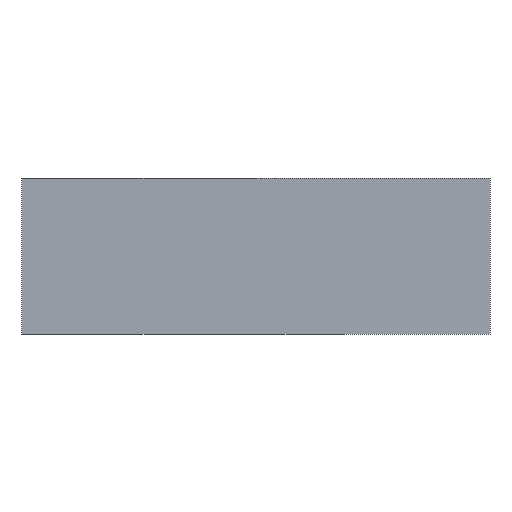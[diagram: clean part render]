
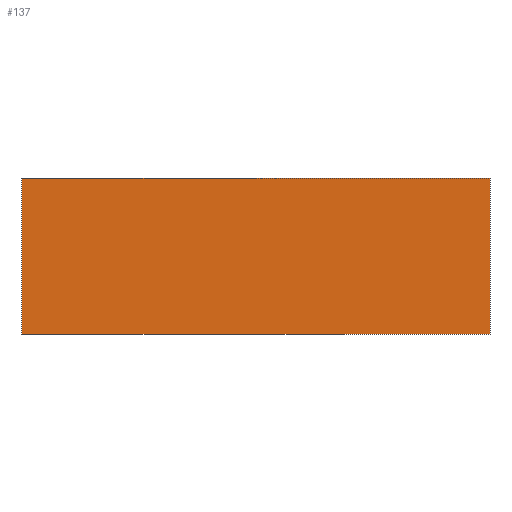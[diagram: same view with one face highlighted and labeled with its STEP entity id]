
A CAD part, front view. The second image highlights one B-rep face of the part: STEP entity #137.
In plain terms, the highlighted planar face has unit normal (0, -1, 0).
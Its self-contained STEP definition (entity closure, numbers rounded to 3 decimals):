
#21 = EDGE_CURVE('',#22,#24,#26,.T.);
#22 = VERTEX_POINT('',#23);
#23 = CARTESIAN_POINT('',(-14.,-30.8,53.2));
#24 = VERTEX_POINT('',#25);
#25 = CARTESIAN_POINT('',(-14.,-30.8,57.2));
#26 = SURFACE_CURVE('',#27,(#31,#43),.PCURVE_S1.);
#27 = LINE('',#28,#29);
#28 = CARTESIAN_POINT('',(-14.,-30.8,53.2));
#29 = VECTOR('',#30,1.);
#30 = DIRECTION('',(0.,0.,1.));
#31 = PCURVE('',#32,#37);
#32 = PLANE('',#33);
#33 = AXIS2_PLACEMENT_3D('',#34,#35,#36);
#34 = CARTESIAN_POINT('',(-14.,-30.8,53.2));
#35 = DIRECTION('',(1.,0.,0.));
#36 = DIRECTION('',(0.,0.,1.));
#37 = DEFINITIONAL_REPRESENTATION('',(#38),#42);
#38 = LINE('',#39,#40);
#39 = CARTESIAN_POINT('',(0.,0.));
#40 = VECTOR('',#41,1.);
#41 = DIRECTION('',(1.,0.));
#42 = ( GEOMETRIC_REPRESENTATION_CONTEXT(2) 
PARAMETRIC_REPRESENTATION_CONTEXT() REPRESENTATION_CONTEXT('2D SPACE',''
  ) );
#43 = PCURVE('',#44,#49);
#44 = PLANE('',#45);
#45 = AXIS2_PLACEMENT_3D('',#46,#47,#48);
#46 = CARTESIAN_POINT('',(-14.,-30.8,53.2));
#47 = DIRECTION('',(0.,1.,0.));
#48 = DIRECTION('',(0.,0.,1.));
#49 = DEFINITIONAL_REPRESENTATION('',(#50),#54);
#50 = LINE('',#51,#52);
#51 = CARTESIAN_POINT('',(0.,0.));
#52 = VECTOR('',#53,1.);
#53 = DIRECTION('',(1.,0.));
#54 = ( GEOMETRIC_REPRESENTATION_CONTEXT(2) 
PARAMETRIC_REPRESENTATION_CONTEXT() REPRESENTATION_CONTEXT('2D SPACE',''
  ) );
#72 = PLANE('',#73);
#73 = AXIS2_PLACEMENT_3D('',#74,#75,#76);
#74 = CARTESIAN_POINT('',(-14.,-30.8,53.2));
#75 = DIRECTION('',(0.,0.,1.));
#76 = DIRECTION('',(1.,0.,0.));
#126 = PLANE('',#127);
#127 = AXIS2_PLACEMENT_3D('',#128,#129,#130);
#128 = CARTESIAN_POINT('',(-14.,-30.8,57.2));
#129 = DIRECTION('',(0.,0.,1.));
#130 = DIRECTION('',(1.,0.,0.));
#137 = ADVANCED_FACE('',(#138),#44,.F.);
#138 = FACE_BOUND('',#139,.F.);
#139 = EDGE_LOOP('',(#140,#163,#164,#187));
#140 = ORIENTED_EDGE('',*,*,#141,.F.);
#141 = EDGE_CURVE('',#22,#142,#144,.T.);
#142 = VERTEX_POINT('',#143);
#143 = CARTESIAN_POINT('',(-2.,-30.8,53.2));
#144 = SURFACE_CURVE('',#145,(#149,#156),.PCURVE_S1.);
#145 = LINE('',#146,#147);
#146 = CARTESIAN_POINT('',(-14.,-30.8,53.2));
#147 = VECTOR('',#148,1.);
#148 = DIRECTION('',(1.,0.,0.));
#149 = PCURVE('',#44,#150);
#150 = DEFINITIONAL_REPRESENTATION('',(#151),#155);
#151 = LINE('',#152,#153);
#152 = CARTESIAN_POINT('',(0.,0.));
#153 = VECTOR('',#154,1.);
#154 = DIRECTION('',(0.,1.));
#155 = ( GEOMETRIC_REPRESENTATION_CONTEXT(2) 
PARAMETRIC_REPRESENTATION_CONTEXT() REPRESENTATION_CONTEXT('2D SPACE',''
  ) );
#156 = PCURVE('',#72,#157);
#157 = DEFINITIONAL_REPRESENTATION('',(#158),#162);
#158 = LINE('',#159,#160);
#159 = CARTESIAN_POINT('',(0.,0.));
#160 = VECTOR('',#161,1.);
#161 = DIRECTION('',(1.,0.));
#162 = ( GEOMETRIC_REPRESENTATION_CONTEXT(2) 
PARAMETRIC_REPRESENTATION_CONTEXT() REPRESENTATION_CONTEXT('2D SPACE',''
  ) );
#163 = ORIENTED_EDGE('',*,*,#21,.T.);
#164 = ORIENTED_EDGE('',*,*,#165,.T.);
#165 = EDGE_CURVE('',#24,#166,#168,.T.);
#166 = VERTEX_POINT('',#167);
#167 = CARTESIAN_POINT('',(-2.,-30.8,57.2));
#168 = SURFACE_CURVE('',#169,(#173,#180),.PCURVE_S1.);
#169 = LINE('',#170,#171);
#170 = CARTESIAN_POINT('',(-14.,-30.8,57.2));
#171 = VECTOR('',#172,1.);
#172 = DIRECTION('',(1.,0.,0.));
#173 = PCURVE('',#44,#174);
#174 = DEFINITIONAL_REPRESENTATION('',(#175),#179);
#175 = LINE('',#176,#177);
#176 = CARTESIAN_POINT('',(4.,0.));
#177 = VECTOR('',#178,1.);
#178 = DIRECTION('',(0.,1.));
#179 = ( GEOMETRIC_REPRESENTATION_CONTEXT(2) 
PARAMETRIC_REPRESENTATION_CONTEXT() REPRESENTATION_CONTEXT('2D SPACE',''
  ) );
#180 = PCURVE('',#126,#181);
#181 = DEFINITIONAL_REPRESENTATION('',(#182),#186);
#182 = LINE('',#183,#184);
#183 = CARTESIAN_POINT('',(0.,0.));
#184 = VECTOR('',#185,1.);
#185 = DIRECTION('',(1.,0.));
#186 = ( GEOMETRIC_REPRESENTATION_CONTEXT(2) 
PARAMETRIC_REPRESENTATION_CONTEXT() REPRESENTATION_CONTEXT('2D SPACE',''
  ) );
#187 = ORIENTED_EDGE('',*,*,#188,.F.);
#188 = EDGE_CURVE('',#142,#166,#189,.T.);
#189 = SURFACE_CURVE('',#190,(#194,#201),.PCURVE_S1.);
#190 = LINE('',#191,#192);
#191 = CARTESIAN_POINT('',(-2.,-30.8,53.2));
#192 = VECTOR('',#193,1.);
#193 = DIRECTION('',(0.,0.,1.));
#194 = PCURVE('',#44,#195);
#195 = DEFINITIONAL_REPRESENTATION('',(#196),#200);
#196 = LINE('',#197,#198);
#197 = CARTESIAN_POINT('',(0.,12.));
#198 = VECTOR('',#199,1.);
#199 = DIRECTION('',(1.,0.));
#200 = ( GEOMETRIC_REPRESENTATION_CONTEXT(2) 
PARAMETRIC_REPRESENTATION_CONTEXT() REPRESENTATION_CONTEXT('2D SPACE',''
  ) );
#201 = PCURVE('',#202,#207);
#202 = PLANE('',#203);
#203 = AXIS2_PLACEMENT_3D('',#204,#205,#206);
#204 = CARTESIAN_POINT('',(-2.,-30.8,53.2));
#205 = DIRECTION('',(1.,0.,0.));
#206 = DIRECTION('',(0.,0.,1.));
#207 = DEFINITIONAL_REPRESENTATION('',(#208),#212);
#208 = LINE('',#209,#210);
#209 = CARTESIAN_POINT('',(0.,0.));
#210 = VECTOR('',#211,1.);
#211 = DIRECTION('',(1.,0.));
#212 = ( GEOMETRIC_REPRESENTATION_CONTEXT(2) 
PARAMETRIC_REPRESENTATION_CONTEXT() REPRESENTATION_CONTEXT('2D SPACE',''
  ) );
